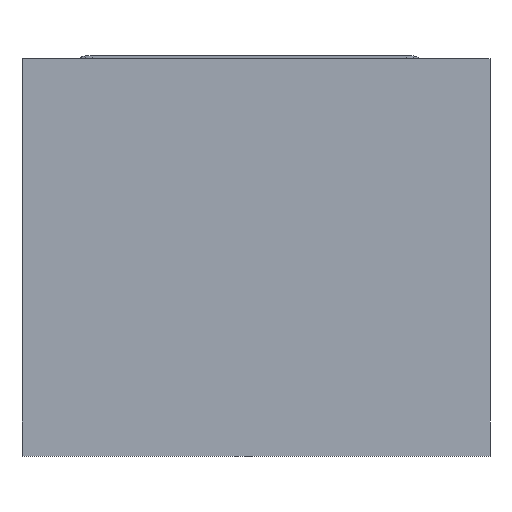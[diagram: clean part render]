
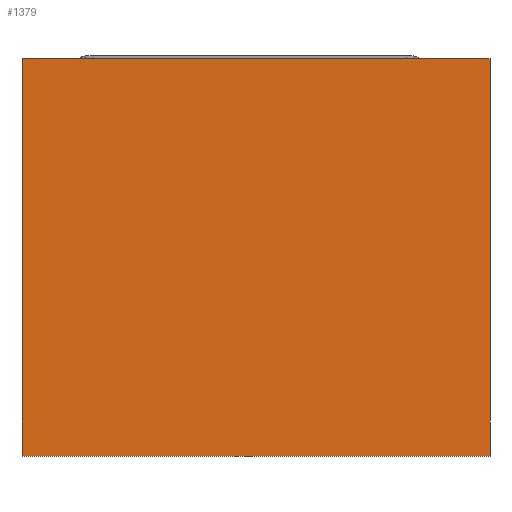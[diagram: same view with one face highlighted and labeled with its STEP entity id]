
A CAD part, front view. The second image highlights one B-rep face of the part: STEP entity #1379.
In plain terms, the highlighted planar face has unit normal (0, -1, 0).
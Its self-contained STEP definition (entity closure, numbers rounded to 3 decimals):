
#65 = EDGE_CURVE ( 'NONE', #1613, #237, #1843, .T. ) ;
#159 = PLANE ( 'NONE',  #1285 ) ;
#177 = CARTESIAN_POINT ( 'NONE',  ( -82.5, 0., -140. ) ) ;
#237 = VERTEX_POINT ( 'NONE', #819 ) ;
#245 = ORIENTED_EDGE ( 'NONE', *, *, #65, .F. ) ;
#277 = VECTOR ( 'NONE', #639, 1000. ) ;
#290 = VECTOR ( 'NONE', #2324, 1000. ) ;
#332 = ORIENTED_EDGE ( 'NONE', *, *, #1202, .F. ) ;
#344 = EDGE_CURVE ( 'NONE', #2248, #2263, #2273, .T. ) ;
#420 = CARTESIAN_POINT ( 'NONE',  ( -82.5, 0., 0. ) ) ;
#423 = EDGE_CURVE ( 'NONE', #237, #2248, #1252, .T. ) ;
#455 = CARTESIAN_POINT ( 'NONE',  ( -82.5, 0., 0. ) ) ;
#540 = DIRECTION ( 'NONE',  ( 0., -1., 0. ) ) ;
#639 = DIRECTION ( 'NONE',  ( 0., 0., 1. ) ) ;
#726 = DIRECTION ( 'NONE',  ( 0., 0., -1. ) ) ;
#819 = CARTESIAN_POINT ( 'NONE',  ( -82.5, 0., -140. ) ) ;
#1008 = CARTESIAN_POINT ( 'NONE',  ( 82.5, 0., 0. ) ) ;
#1122 = CARTESIAN_POINT ( 'NONE',  ( 82.5, 0., 0. ) ) ;
#1202 = EDGE_CURVE ( 'NONE', #2263, #1613, #2165, .T. ) ;
#1252 = LINE ( 'NONE', #455, #277 ) ;
#1285 = AXIS2_PLACEMENT_3D ( 'NONE', #1531, #540, #1912 ) ;
#1379 = ADVANCED_FACE ( 'NONE', ( #1732 ), #159, .T. ) ;
#1531 = CARTESIAN_POINT ( 'NONE',  ( -82.5, 0., -140. ) ) ;
#1536 = ORIENTED_EDGE ( 'NONE', *, *, #344, .F. ) ;
#1589 = VECTOR ( 'NONE', #726, 1000. ) ;
#1613 = VERTEX_POINT ( 'NONE', #1845 ) ;
#1693 = VECTOR ( 'NONE', #1991, 1000. ) ;
#1695 = ORIENTED_EDGE ( 'NONE', *, *, #423, .F. ) ;
#1732 = FACE_OUTER_BOUND ( 'NONE', #2325, .T. ) ;
#1843 = LINE ( 'NONE', #177, #290 ) ;
#1845 = CARTESIAN_POINT ( 'NONE',  ( 82.5, 0., -140. ) ) ;
#1912 = DIRECTION ( 'NONE',  ( 0., 0., -1. ) ) ;
#1991 = DIRECTION ( 'NONE',  ( 1., 0., 0. ) ) ;
#2165 = LINE ( 'NONE', #1122, #1589 ) ;
#2248 = VERTEX_POINT ( 'NONE', #420 ) ;
#2263 = VERTEX_POINT ( 'NONE', #1008 ) ;
#2273 = LINE ( 'NONE', #2381, #1693 ) ;
#2324 = DIRECTION ( 'NONE',  ( -1., 0., 0. ) ) ;
#2325 = EDGE_LOOP ( 'NONE', ( #1695, #245, #332, #1536 ) ) ;
#2381 = CARTESIAN_POINT ( 'NONE',  ( 82.5, 0., 0. ) ) ;
